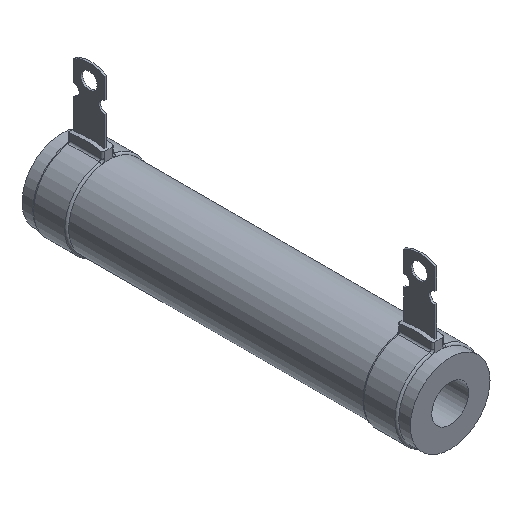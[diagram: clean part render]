
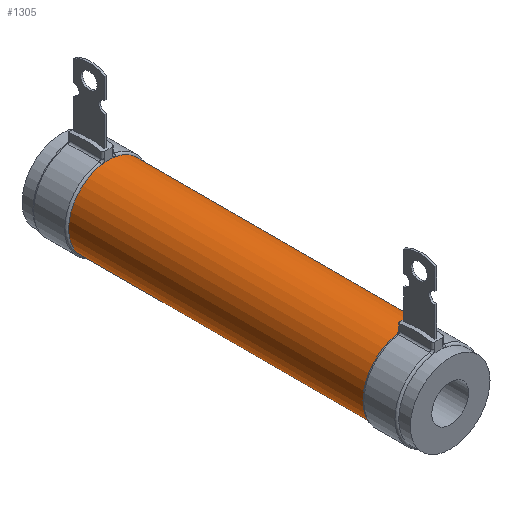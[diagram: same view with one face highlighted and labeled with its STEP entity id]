
A CAD part, isometric view. The second image highlights one B-rep face of the part: STEP entity #1305.
In plain terms, the highlighted cylindrical face has radius 10.25 mm (diameter 20.5 mm), a full revolution.
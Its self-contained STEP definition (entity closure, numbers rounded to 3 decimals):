
#50=CYLINDRICAL_SURFACE($,#1437,10.25);
#71=FACE_BOUND($,#213,.T.);
#129=FACE_OUTER_BOUND($,#212,.T.);
#212=EDGE_LOOP($,(#1016,#1017));
#213=EDGE_LOOP($,(#1018,#1019));
#469=CIRCLE($,#1422,10.25);
#473=CIRCLE($,#1436,10.25);
#474=CIRCLE($,#1438,10.25);
#475=CIRCLE($,#1439,10.25);
#564=VERTEX_POINT($,#2089);
#573=VERTEX_POINT($,#2123);
#580=VERTEX_POINT($,#2182);
#581=VERTEX_POINT($,#2183);
#717=EDGE_CURVE($,#564,#573,#469,.T.);
#733=EDGE_CURVE($,#573,#564,#473,.T.);
#734=EDGE_CURVE($,#580,#581,#474,.T.);
#735=EDGE_CURVE($,#581,#580,#475,.T.);
#1016=ORIENTED_EDGE($,*,*,#734,.T.);
#1017=ORIENTED_EDGE($,*,*,#735,.T.);
#1018=ORIENTED_EDGE($,*,*,#717,.T.);
#1019=ORIENTED_EDGE($,*,*,#733,.T.);
#1305=ADVANCED_FACE($,(#129,#71),#50,.T.);
#1422=AXIS2_PLACEMENT_3D($,#2132,#1720,#1721);
#1436=AXIS2_PLACEMENT_3D($,#2180,#1758,#1759);
#1437=AXIS2_PLACEMENT_3D($,#2181,#1760,#1761);
#1438=AXIS2_PLACEMENT_3D($,#2184,#1762,#1763);
#1439=AXIS2_PLACEMENT_3D($,#2185,#1764,#1765);
#1720=DIRECTION('center_axis',(0.,-1.,0.));
#1721=DIRECTION('ref_axis',(-1.,0.,0.));
#1758=DIRECTION('center_axis',(0.,-1.,0.));
#1759=DIRECTION('ref_axis',(-1.,0.,0.));
#1760=DIRECTION('center_axis',(0.,-1.,0.));
#1761=DIRECTION('ref_axis',(-1.,0.,0.));
#1762=DIRECTION('center_axis',(0.,1.,0.));
#1763=DIRECTION('ref_axis',(-1.,0.,0.));
#1764=DIRECTION('center_axis',(0.,1.,0.));
#1765=DIRECTION('ref_axis',(-1.,0.,0.));
#2089=CARTESIAN_POINT('',(-1.822,88.,10.087));
#2123=CARTESIAN_POINT('',(1.822,88.,10.087));
#2132=CARTESIAN_POINT('Origin',(0.,88.,0.));
#2180=CARTESIAN_POINT('Origin',(0.,88.,0.));
#2181=CARTESIAN_POINT('Origin',(0.,50.,0.));
#2182=CARTESIAN_POINT('',(1.822,12.,10.087));
#2183=CARTESIAN_POINT('',(-1.822,12.,10.087));
#2184=CARTESIAN_POINT('Origin',(0.,12.,0.));
#2185=CARTESIAN_POINT('Origin',(0.,12.,0.));
